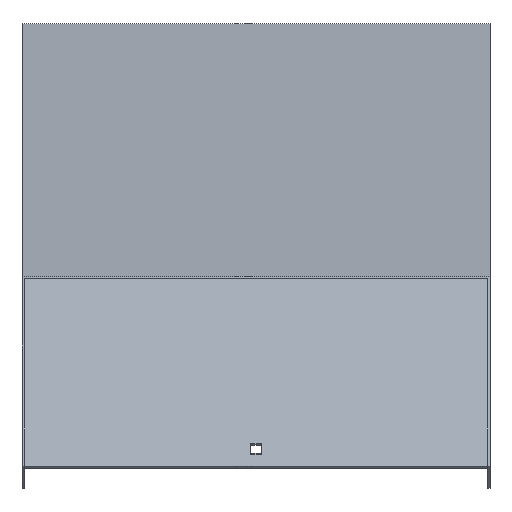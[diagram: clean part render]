
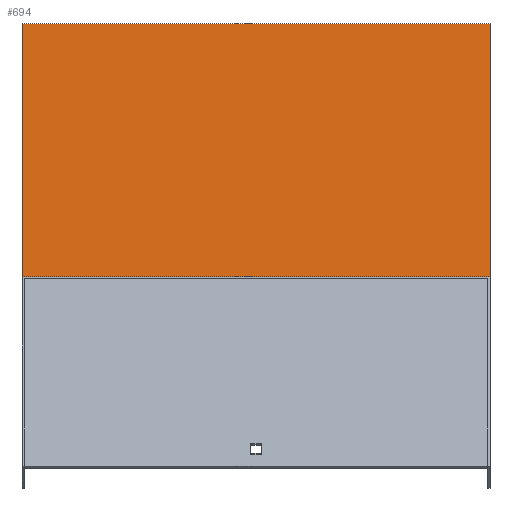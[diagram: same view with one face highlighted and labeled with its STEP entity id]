
A CAD part, top view. The second image highlights one B-rep face of the part: STEP entity #694.
In plain terms, the highlighted planar face has unit normal (0, 0.924, 0.383).
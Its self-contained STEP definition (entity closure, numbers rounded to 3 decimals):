
#15 = DIRECTION ( 'NONE',  ( 0., 0.383, -0.924 ) ) ;
#17 = VERTEX_POINT ( 'NONE', #253 ) ;
#22 = FACE_OUTER_BOUND ( 'NONE', #767, .T. ) ;
#29 = DIRECTION ( 'NONE',  ( 0., -0.924, -0.383 ) ) ;
#94 = LINE ( 'NONE', #553, #628 ) ;
#145 = LINE ( 'NONE', #517, #739 ) ;
#165 = LINE ( 'NONE', #602, #384 ) ;
#177 = VERTEX_POINT ( 'NONE', #607 ) ;
#244 = EDGE_CURVE ( 'NONE', #837, #685, #94, .T. ) ;
#253 = CARTESIAN_POINT ( 'NONE',  ( 151.5, 20., 173.978 ) ) ;
#269 = ORIENTED_EDGE ( 'NONE', *, *, #753, .F. ) ;
#270 = CARTESIAN_POINT ( 'NONE',  ( -151.5, -144.537, 571.206 ) ) ;
#306 = LINE ( 'NONE', #824, #785 ) ;
#342 = DIRECTION ( 'NONE',  ( -1., 0., 0. ) ) ;
#384 = VECTOR ( 'NONE', #671, 1000. ) ;
#392 = DIRECTION ( 'NONE',  ( 0., -0.383, 0.924 ) ) ;
#442 = ORIENTED_EDGE ( 'NONE', *, *, #244, .F. ) ;
#479 = ORIENTED_EDGE ( 'NONE', *, *, #488, .T. ) ;
#488 = EDGE_CURVE ( 'NONE', #177, #685, #145, .T. ) ;
#492 = ORIENTED_EDGE ( 'NONE', *, *, #619, .T. ) ;
#517 = CARTESIAN_POINT ( 'NONE',  ( -151.5, 18.478, 177.654 ) ) ;
#530 = CARTESIAN_POINT ( 'NONE',  ( 151.5, -144.537, 571.206 ) ) ;
#553 = CARTESIAN_POINT ( 'NONE',  ( 151.5, -144.537, 571.206 ) ) ;
#602 = CARTESIAN_POINT ( 'NONE',  ( 151.5, 20., 173.978 ) ) ;
#607 = CARTESIAN_POINT ( 'NONE',  ( -151.5, 20., 173.978 ) ) ;
#619 = EDGE_CURVE ( 'NONE', #17, #177, #165, .T. ) ;
#628 = VECTOR ( 'NONE', #342, 1000. ) ;
#671 = DIRECTION ( 'NONE',  ( -1., 0., 0. ) ) ;
#685 = VERTEX_POINT ( 'NONE', #270 ) ;
#694 = ADVANCED_FACE ( 'NONE', ( #22 ), #813, .F. ) ;
#739 = VECTOR ( 'NONE', #392, 1000. ) ;
#749 = CARTESIAN_POINT ( 'NONE',  ( 151.5, 18.478, 177.654 ) ) ;
#753 = EDGE_CURVE ( 'NONE', #17, #837, #306, .T. ) ;
#767 = EDGE_LOOP ( 'NONE', ( #479, #442, #269, #492 ) ) ;
#777 = DIRECTION ( 'NONE',  ( 0., -0.383, 0.924 ) ) ;
#785 = VECTOR ( 'NONE', #777, 1000. ) ;
#812 = AXIS2_PLACEMENT_3D ( 'NONE', #749, #29, #15 ) ;
#813 = PLANE ( 'NONE',  #812 ) ;
#824 = CARTESIAN_POINT ( 'NONE',  ( 151.5, 18.478, 177.654 ) ) ;
#837 = VERTEX_POINT ( 'NONE', #530 ) ;
